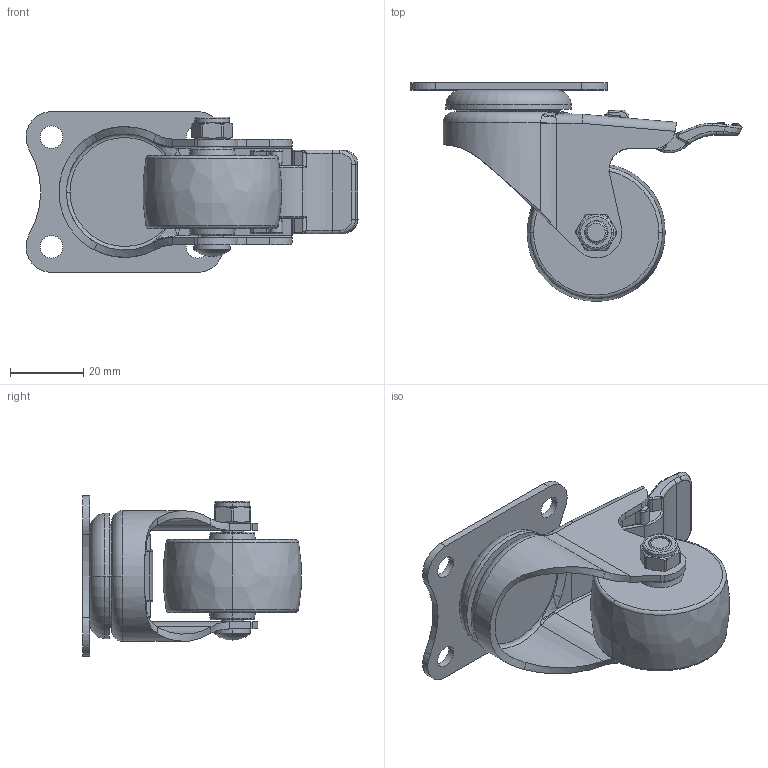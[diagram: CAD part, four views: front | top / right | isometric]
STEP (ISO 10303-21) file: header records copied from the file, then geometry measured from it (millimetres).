
FILE_DESCRIPTION((''),'2;1');
FILE_NAME('261115-2615-83_ASM','2019-12-13T',('L'),(''),'PRO/ENGINEER BY PARAMETRIC TECHNOLOGY CORPORATION, 2010280','PRO/ENGINEER BY PARAMETRIC TECHNOLOGY CORPORATION, 2010280','');
FILE_SCHEMA(('CONFIG_CONTROL_DESIGN'));
Length unit declared in the file: millimetre
Products named in the file (6): 261215; 2615-83; 2610-020; 2610-031; 2600-512; 261115-2615-83_ASM
Assembly tree (5 placements, depth 2):
  261115-2615-83_ASM
    261215
    2615-83
    2610-020
    2610-031
    2600-512
Bounding box: 90.94 x 59.9 x 44 mm (x, y, z)
Volume: 42392.1 mm3; surface area: 21905.8 mm2
Topology: 5 solids, 5 shells, 326 faces, 786 edges, 475 vertices
Faces by surface type: cylinder 120, plane 91, torus 54, bspline 41, cone 18, sphere 2
Entity records: 12003 total; most frequent: CARTESIAN_POINT 4386, DIRECTION 1608, ORIENTED_EDGE 1560, EDGE_CURVE 780, AXIS2_PLACEMENT_3D 649, VERTEX_POINT 475, EDGE_LOOP 355, CIRCLE 353
